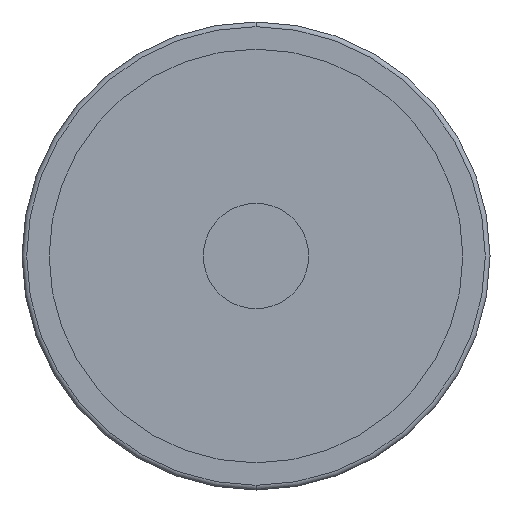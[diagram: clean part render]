
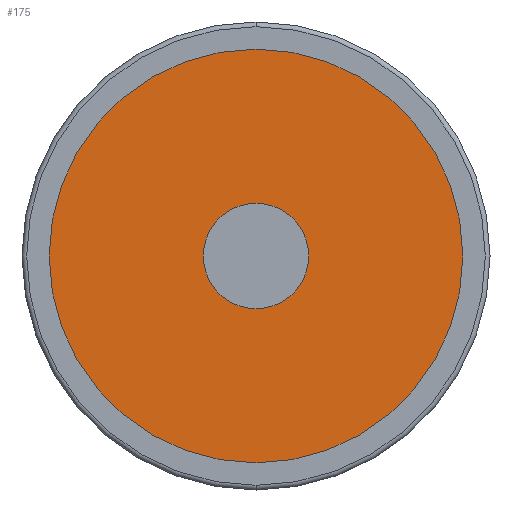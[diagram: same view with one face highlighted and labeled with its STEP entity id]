
A CAD part, front view. The second image highlights one B-rep face of the part: STEP entity #175.
In plain terms, the highlighted planar face has unit normal (0, -1, 0).
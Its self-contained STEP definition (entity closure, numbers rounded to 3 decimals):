
#143 = CARTESIAN_POINT ( 'NONE',  ( 0., 4.5, 0. ) ) ;
#173 = CIRCLE ( 'NONE', #2671, 10.25 ) ;
#175 = ADVANCED_FACE ( 'NONE', ( #1131, #654 ), #2623, .T. ) ;
#194 = EDGE_LOOP ( 'NONE', ( #1861, #3162 ) ) ;
#234 = CARTESIAN_POINT ( 'NONE',  ( 0., 4.5, 0. ) ) ;
#390 = DIRECTION ( 'NONE',  ( 0., -1., 0. ) ) ;
#428 = CARTESIAN_POINT ( 'NONE',  ( 0., 4.5, 0. ) ) ;
#464 = DIRECTION ( 'NONE',  ( 1., 0., 0. ) ) ;
#495 = VERTEX_POINT ( 'NONE', #2198 ) ;
#528 = AXIS2_PLACEMENT_3D ( 'NONE', #428, #2136, #2446 ) ;
#533 = EDGE_CURVE ( 'NONE', #495, #1050, #173, .T. ) ;
#619 = ORIENTED_EDGE ( 'NONE', *, *, #2776, .T. ) ;
#654 = FACE_BOUND ( 'NONE', #194, .T. ) ;
#761 = DIRECTION ( 'NONE',  ( 1., 0., 0. ) ) ;
#924 = CARTESIAN_POINT ( 'NONE',  ( -44.3, 4.5, 0. ) ) ;
#1050 = VERTEX_POINT ( 'NONE', #2883 ) ;
#1131 = FACE_OUTER_BOUND ( 'NONE', #1756, .T. ) ;
#1230 = AXIS2_PLACEMENT_3D ( 'NONE', #234, #1679, #1487 ) ;
#1261 = CARTESIAN_POINT ( 'NONE',  ( 0., 4.5, 0. ) ) ;
#1400 = DIRECTION ( 'NONE',  ( 1., 0., 0. ) ) ;
#1487 = DIRECTION ( 'NONE',  ( 1., 0., 0. ) ) ;
#1653 = VERTEX_POINT ( 'NONE', #2763 ) ;
#1679 = DIRECTION ( 'NONE',  ( 0., -1., 0. ) ) ;
#1685 = DIRECTION ( 'NONE',  ( 0., -1., 0. ) ) ;
#1686 = VERTEX_POINT ( 'NONE', #924 ) ;
#1743 = AXIS2_PLACEMENT_3D ( 'NONE', #1261, #3041, #761 ) ;
#1756 = EDGE_LOOP ( 'NONE', ( #619, #2492 ) ) ;
#1861 = ORIENTED_EDGE ( 'NONE', *, *, #3164, .F. ) ;
#1882 = CIRCLE ( 'NONE', #528, 10.25 ) ;
#2136 = DIRECTION ( 'NONE',  ( 0., -1., 0. ) ) ;
#2198 = CARTESIAN_POINT ( 'NONE',  ( -10.25, 4.5, 0. ) ) ;
#2446 = DIRECTION ( 'NONE',  ( 1., 0., 0. ) ) ;
#2466 = CIRCLE ( 'NONE', #1230, 44.3 ) ;
#2492 = ORIENTED_EDGE ( 'NONE', *, *, #2921, .T. ) ;
#2605 = CARTESIAN_POINT ( 'NONE',  ( -44.3, 4.5, 0. ) ) ;
#2623 = PLANE ( 'NONE',  #3197 ) ;
#2671 = AXIS2_PLACEMENT_3D ( 'NONE', #143, #1685, #464 ) ;
#2763 = CARTESIAN_POINT ( 'NONE',  ( 44.3, 4.5, 0. ) ) ;
#2776 = EDGE_CURVE ( 'NONE', #1686, #1653, #3147, .T. ) ;
#2883 = CARTESIAN_POINT ( 'NONE',  ( 10.25, 4.5, 0. ) ) ;
#2921 = EDGE_CURVE ( 'NONE', #1653, #1686, #2466, .T. ) ;
#3041 = DIRECTION ( 'NONE',  ( 0., -1., 0. ) ) ;
#3147 = CIRCLE ( 'NONE', #1743, 44.3 ) ;
#3162 = ORIENTED_EDGE ( 'NONE', *, *, #533, .F. ) ;
#3164 = EDGE_CURVE ( 'NONE', #1050, #495, #1882, .T. ) ;
#3197 = AXIS2_PLACEMENT_3D ( 'NONE', #2605, #390, #1400 ) ;
